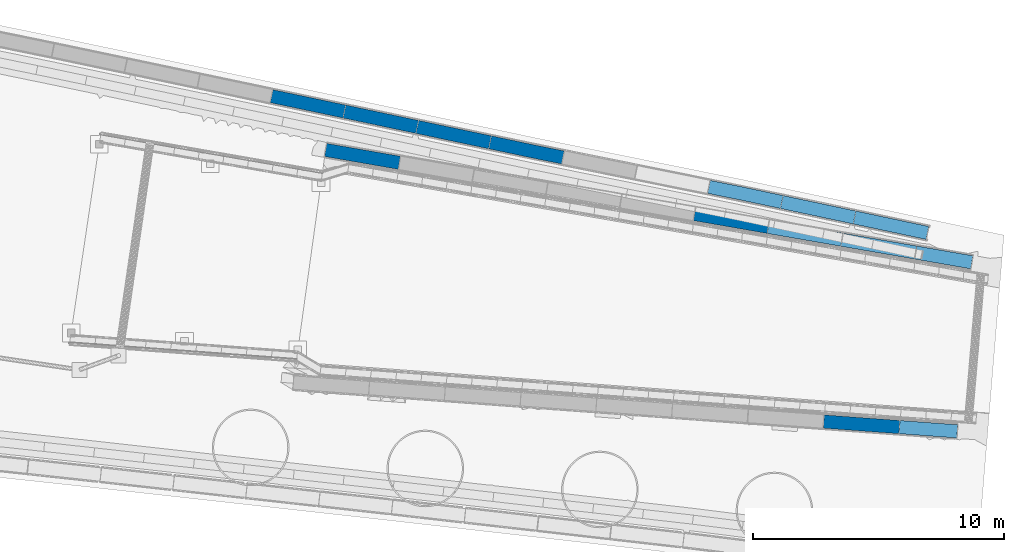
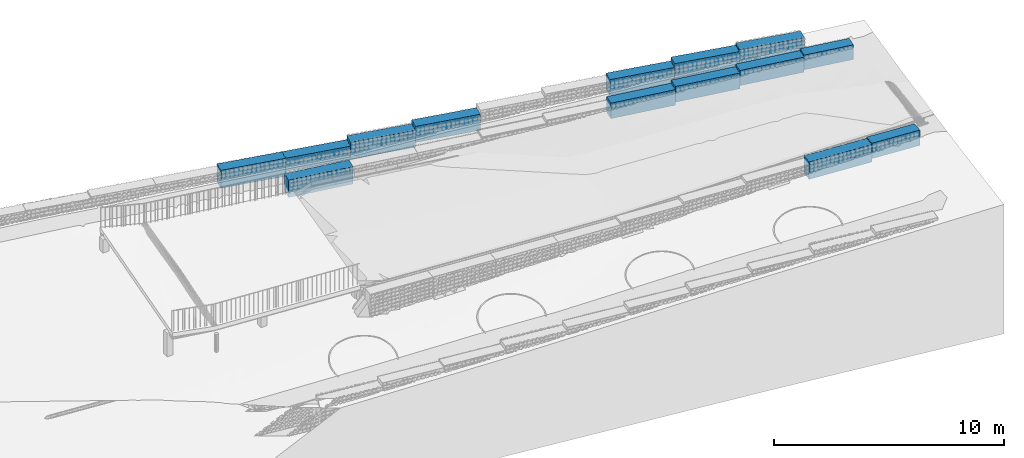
# Not in any storey, part 7 of 45: 14 walls.
"""IFC4 model written with IfcOpenShell, lengths in metres."""

from ifc_helpers import new_model, si_unit, direction, frame, origin_with_axes, place, context, subcontext, project, spatial, polyline, outline, extrude, material, element, save


model = new_model("IFC4")

# Units and contexts
model_context = context("Model", 3, precision=1e-05, world=origin_with_axes(), true_north=direction((0.0, 1.0)))
body_context = subcontext(model_context, "Body", "Model", "MODEL_VIEW")
ifc_project = project(units=[si_unit("VOLUMEUNIT", "CUBIC_METRE"), si_unit("LENGTHUNIT", "METRE"), si_unit("AREAUNIT", "SQUARE_METRE")], contexts=[model_context])

# Site
site_placement = place(None, origin_with_axes())
site = spatial("IfcSite", under=ifc_project, at=site_placement, Name="Lares · Rua das Mercês · artigo 4771")

# Walls
ifc_material = material(Name="Gabião · enchimento", Category="stone")
wall_1_placement = place(site_placement, frame((0.0, 0.0, 15.3761019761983), z_axis=(0.0, 0.0, 1.0), x_axis=(1.0, -1.03767253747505e-17, 0.0)))
element("IfcWall", 1, at=wall_1_placement, inside=site, material=ifc_material, Name="Acesso · gabião -1 30.0 · núcleo de pedra", ObjectType="Acesso · gabião -1 30.0 · núcleo de pedra", PredefinedType="USERDEFINED", context=body_context, shape_type="SweptSolid", body=[
    extrude(outline(polyline([(79.7230708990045, 0.213733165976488), (79.684187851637, -0.314838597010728), (76.6649310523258, -0.0927345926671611), (76.7038140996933, 0.435837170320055), (79.7230708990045, 0.213733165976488)])), origin_with_axes(), (0.0, 0.0, 1.0), 0.922594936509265),
])
wall_2_placement = place(site_placement, frame((0.0, 0.0, 15.5502454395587), z_axis=(0.0, 0.0, 1.0), x_axis=(1.0, -1.03767253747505e-17, 0.0)))
element("IfcWall", 2, at=wall_2_placement, inside=site, material=ifc_material, Name="Acesso · gabião -1 33.0 · núcleo de pedra", ObjectType="Acesso · gabião -1 33.0 · núcleo de pedra", PredefinedType="USERDEFINED", context=body_context, shape_type="SweptSolid", body=[
    extrude(outline(polyline([(82.025962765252, 0.04435366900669), (81.9870858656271, -0.484218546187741), (79.6841909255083, -0.314838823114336), (79.7230678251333, 0.213733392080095), (82.025962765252, 0.04435366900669)])), origin_with_axes(), (0.0, 0.0, 1.0), 0.817310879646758),
])
wall_3_placement = place(site_placement, frame((0.0, 0.0, 14.8084025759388), z_axis=(0.0, 0.0, 1.0), x_axis=(1.0, -1.03767253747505e-17, 0.0)))
element("IfcWall", 3, at=wall_3_placement, inside=site, material=ifc_material, Name="Acesso · gabião 1 9.0 · núcleo de pedra", ObjectType="Acesso · gabião 1 9.0 · núcleo de pedra", PredefinedType="USERDEFINED", context=body_context, shape_type="SweptSolid", body=[
    extrude(outline(polyline([(59.8316485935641, 10.7372547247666), (59.7409161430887, 10.2150788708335), (56.8020563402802, 10.7257305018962), (56.8927887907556, 11.2479063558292), (59.8316485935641, 10.7372547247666)])), origin_with_axes(), (0.0, 0.0, 1.0), 0.921597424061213),
])
wall_4_placement = place(site_placement, frame((0.0, 0.0, 15.390890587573), z_axis=(0.0, 0.0, 1.0), x_axis=(1.0, -1.03767253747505e-17, 0.0)))
element("IfcWall", 4, at=wall_4_placement, inside=site, material=ifc_material, Name="Acesso · gabião 1 24.0 · núcleo de pedra", ObjectType="Acesso · gabião 1 24.0 · núcleo de pedra", PredefinedType="USERDEFINED", context=body_context, shape_type="SweptSolid", body=[
    extrude(outline(polyline([(74.5209485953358, 8.18434192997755), (74.4301814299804, 7.66217210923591), (71.4931528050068, 8.17270671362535), (71.5839199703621, 8.69487653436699), (74.5209485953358, 8.18434192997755)])), origin_with_axes(), (0.0, 0.0, 1.0), 0.822573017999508),
])
wall_5_placement = place(site_placement, frame((0.0, 0.0, 15.5433495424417), z_axis=(0.0, 0.0, 1.0), x_axis=(1.0, -1.03767253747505e-17, 0.0)))
element("IfcWall", 5, at=wall_5_placement, inside=site, material=ifc_material, Name="Acesso · gabião 1 27.0 · núcleo de pedra", ObjectType="Acesso · gabião 1 27.0 · núcleo de pedra", PredefinedType="USERDEFINED", context=body_context, shape_type="SweptSolid", body=[
    extrude(outline(polyline([(77.4574393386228, 7.67382817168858), (77.366659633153, 7.1516605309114), (74.4301751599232, 7.66217319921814), (74.520954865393, 8.18434083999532), (77.4574393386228, 7.67382817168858)])), origin_with_axes(), (0.0, 0.0, 1.0), 0.832358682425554),
])
wall_6_placement = place(site_placement, frame((0.0, 0.0, 15.7041706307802), z_axis=(0.0, 0.0, 1.0), x_axis=(1.0, -1.03767253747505e-17, 0.0)))
element("IfcWall", 6, at=wall_6_placement, inside=site, material=ifc_material, Name="Acesso · gabião 1 30.0 · núcleo de pedra", ObjectType="Acesso · gabião 1 30.0 · núcleo de pedra", PredefinedType="USERDEFINED", context=body_context, shape_type="SweptSolid", body=[
    extrude(outline(polyline([(80.3932975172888, 7.16333297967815), (80.3025020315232, 6.64116808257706), (77.3666517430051, 7.15166190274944), (77.4574472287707, 7.67382679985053), (80.3932975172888, 7.16333297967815)])), origin_with_axes(), (0.0, 0.0, 1.0), 0.802938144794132),
])
wall_7_placement = place(site_placement, frame((0.0, 0.0, 15.8286969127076), z_axis=(0.0, 0.0, 1.0), x_axis=(1.0, -1.03767253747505e-17, 0.0)))
element("IfcWall", 7, at=wall_7_placement, inside=site, material=ifc_material, Name="Acesso · gabião 1 33.0 · núcleo de pedra", ObjectType="Acesso · gabião 1 33.0 · núcleo de pedra", PredefinedType="USERDEFINED", context=body_context, shape_type="SweptSolid", body=[
    extrude(outline(polyline([(82.6316099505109, 6.77405251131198), (82.5407971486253, 6.25189062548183), (80.3024933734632, 6.64116958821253), (80.3933061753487, 7.16333147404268), (82.6316099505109, 6.77405251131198)])), origin_with_axes(), (0.0, 0.0, 1.0), 0.777440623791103),
])
wall_8_placement = place(site_placement, frame((0.0, 0.0, 14.75), z_axis=(0.0, 0.0, 1.0), x_axis=(1.0, -1.03767253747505e-17, 0.0)))
element("IfcWall", 8, at=wall_8_placement, inside=site, material=ifc_material, Name="Limite north · gabião 19 · núcleo de pedra", ObjectType="Limite north · gabião 19 · núcleo de pedra", PredefinedType="USERDEFINED", context=body_context, shape_type="SweptSolid", body=[
    extrude(outline(polyline([(56.4691492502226, 13.027263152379), (56.4695476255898, 13.0271792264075), (57.6501177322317, 12.7775205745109), (57.5404621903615, 12.2589883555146), (56.3600912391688, 12.5086048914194), (54.6393722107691, 12.8697295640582), (54.7482310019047, 13.3884296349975), (56.4691492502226, 13.027263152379)])), origin_with_axes(), (0.0, 0.0, 1.0), 0.950000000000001),
])
wall_9_placement = place(site_placement, frame((0.0, 0.0, 15.0), z_axis=(0.0, 0.0, 1.0), x_axis=(1.0, -1.03767253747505e-17, 0.0)))
element("IfcWall", 9, at=wall_9_placement, inside=site, material=ifc_material, Name="Limite north · gabião 20 · núcleo de pedra", ObjectType="Limite north · gabião 20 · núcleo de pedra", PredefinedType="USERDEFINED", context=body_context, shape_type="SweptSolid", body=[
    extrude(outline(polyline([(60.551049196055, 12.1640520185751), (60.4413936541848, 11.6455197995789), (57.5404621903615, 12.2589883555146), (57.6501177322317, 12.7775205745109), (60.551049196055, 12.1640520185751)])), origin_with_axes(), (0.0, 0.0, 1.0), 0.700000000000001),
])
wall_10_placement = place(site_placement, frame((0.0, 0.0, 15.0), z_axis=(0.0, 0.0, 1.0), x_axis=(1.0, -1.03767253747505e-17, 0.0)))
element("IfcWall", 10, at=wall_10_placement, inside=site, material=ifc_material, Name="Limite north · gabião 21 · núcleo de pedra", ObjectType="Limite north · gabião 21 · núcleo de pedra", PredefinedType="USERDEFINED", context=body_context, shape_type="SweptSolid", body=[
    extrude(outline(polyline([(63.4519806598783, 11.5505834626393), (63.3423251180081, 11.0320512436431), (60.4413936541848, 11.6455197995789), (60.551049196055, 12.1640520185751), (63.4519806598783, 11.5505834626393)])), origin_with_axes(), (0.0, 0.0, 1.0), 0.9),
])
wall_11_placement = place(site_placement, frame((0.0, 0.0, 15.25), z_axis=(0.0, 0.0, 1.0), x_axis=(1.0, -1.03767253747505e-17, 0.0)))
element("IfcWall", 11, at=wall_11_placement, inside=site, material=ifc_material, Name="Limite north · gabião 22 · núcleo de pedra", ObjectType="Limite north · gabião 22 · núcleo de pedra", PredefinedType="USERDEFINED", context=body_context, shape_type="SweptSolid", body=[
    extrude(outline(polyline([(65.1604418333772, 11.1892901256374), (66.3527884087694, 10.9488009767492), (66.2480007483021, 10.4292631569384), (65.0544360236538, 10.6699979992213), (65.0520020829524, 10.6705007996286), (63.3423251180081, 11.0320512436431), (63.4519806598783, 11.5505834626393), (65.1604418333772, 11.1892901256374)])), origin_with_axes(), (0.0, 0.0, 1.0), 0.850000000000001),
])
wall_12_placement = place(site_placement, frame((0.0, 0.0, 15.75), z_axis=(0.0, 0.0, 1.0), x_axis=(1.0, -1.03767253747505e-17, 0.0)))
element("IfcWall", 12, at=wall_12_placement, inside=site, material=ifc_material, Name="Limite north · gabião 25 · núcleo de pedra", ObjectType="Limite north · gabião 25 · núcleo de pedra", PredefinedType="USERDEFINED", context=body_context, shape_type="SweptSolid", body=[
    extrude(outline(polyline([(73.4824731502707, 9.5107863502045), (73.4851480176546, 9.51023248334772), (75.0717450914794, 9.17316935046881), (74.9616076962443, 8.65473926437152), (73.3763466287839, 8.99151857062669), (72.0611153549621, 9.25679282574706), (72.1659030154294, 9.77633064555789), (73.4824731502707, 9.5107863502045)])), origin_with_axes(), (0.0, 0.0, 1.0), 0.850000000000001),
])
wall_13_placement = place(site_placement, frame((0.0, 0.0, 15.75), z_axis=(0.0, 0.0, 1.0), x_axis=(1.0, -1.03767253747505e-17, 0.0)))
element("IfcWall", 13, at=wall_13_placement, inside=site, material=ifc_material, Name="Limite north · gabião 26 · núcleo de pedra", ObjectType="Limite north · gabião 26 · núcleo de pedra", PredefinedType="USERDEFINED", context=body_context, shape_type="SweptSolid", body=[
    extrude(outline(polyline([(77.9721051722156, 8.55700506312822), (77.8619677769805, 8.03857497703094), (74.9616076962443, 8.65473926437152), (75.0717450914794, 9.17316935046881), (77.9721051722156, 8.55700506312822)])), origin_with_axes(), (0.0, 0.0, 1.0), 1.05),
])
wall_14_placement = place(site_placement, frame((0.0, 0.0, 16.0), z_axis=(0.0, 0.0, 1.0), x_axis=(1.0, -1.03767253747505e-17, 0.0)))
element("IfcWall", 14, at=wall_14_placement, inside=site, material=ifc_material, Name="Limite north · gabião 27 · núcleo de pedra", ObjectType="Limite north · gabião 27 · núcleo de pedra", PredefinedType="USERDEFINED", context=body_context, shape_type="SweptSolid", body=[
    extrude(outline(polyline([(80.8724652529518, 7.94084077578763), (80.7623278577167, 7.42241068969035), (77.8619677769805, 8.03857497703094), (77.9721051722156, 8.55700506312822), (80.8724652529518, 7.94084077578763)])), origin_with_axes(), (0.0, 0.0, 1.0), 0.900000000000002),
])

save(model, "model.ifc")
